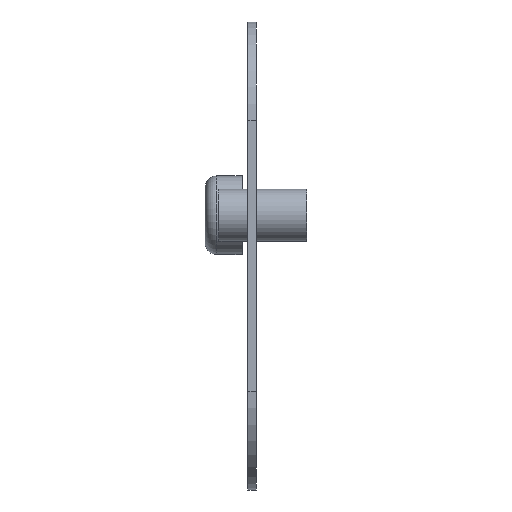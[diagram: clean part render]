
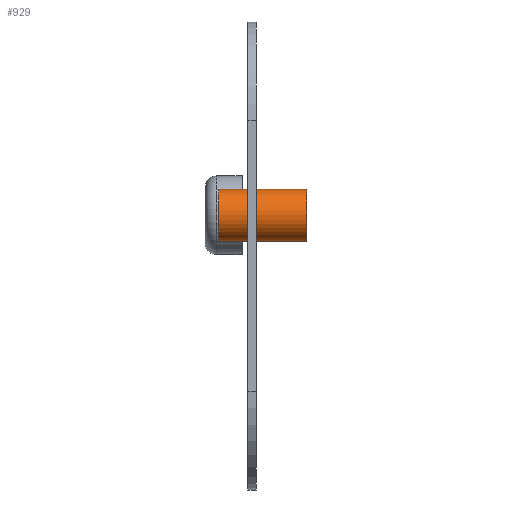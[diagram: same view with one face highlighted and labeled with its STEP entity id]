
A CAD part, left-side view. The second image highlights one B-rep face of the part: STEP entity #929.
In plain terms, the highlighted cylindrical face has radius 14.287 mm (diameter 28.575 mm), a partial arc.
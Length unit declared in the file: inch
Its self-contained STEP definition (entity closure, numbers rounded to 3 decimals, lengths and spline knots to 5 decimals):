
#12 = DIRECTION ( 'NONE',  ( 0., 1., 0. ) ) ;
#120 = DIRECTION ( 'NONE',  ( 0., 0., 1. ) ) ;
#163 = EDGE_CURVE ( 'NONE', #1482, #923, #1541, .T. ) ;
#194 = AXIS2_PLACEMENT_3D ( 'NONE', #1757, #681, #1453 ) ;
#230 = ORIENTED_EDGE ( 'NONE', *, *, #1668, .F. ) ;
#321 = CARTESIAN_POINT ( 'NONE',  ( -4.01498, 0.87234, 0.2816 ) ) ;
#381 = CARTESIAN_POINT ( 'NONE',  ( -4.01498, -1.02766, 1.4066 ) ) ;
#417 = VECTOR ( 'NONE', #1460, 39.37008 ) ;
#595 = LINE ( 'NONE', #1375, #1367 ) ;
#681 = DIRECTION ( 'NONE',  ( 0., -1., 0. ) ) ;
#800 = VERTEX_POINT ( 'NONE', #1715 ) ;
#851 = AXIS2_PLACEMENT_3D ( 'NONE', #1958, #1046, #120 ) ;
#853 = CARTESIAN_POINT ( 'NONE',  ( -4.01498, 0.87234, 1.4066 ) ) ;
#923 = VERTEX_POINT ( 'NONE', #381 ) ;
#928 = ORIENTED_EDGE ( 'NONE', *, *, #1331, .T. ) ;
#929 = ADVANCED_FACE ( 'NONE', ( #1055 ), #1016, .T. ) ;
#937 = CARTESIAN_POINT ( 'NONE',  ( -4.01498, -1.02766, 0.8441 ) ) ;
#1016 = CYLINDRICAL_SURFACE ( 'NONE', #194, 0.5625 ) ;
#1046 = DIRECTION ( 'NONE',  ( 0., 1., 0. ) ) ;
#1055 = FACE_OUTER_BOUND ( 'NONE', #1623, .T. ) ;
#1096 = DIRECTION ( 'NONE',  ( 0., 0., 1. ) ) ;
#1140 = ORIENTED_EDGE ( 'NONE', *, *, #1807, .T. ) ;
#1224 = DIRECTION ( 'NONE',  ( 0., -1., 0. ) ) ;
#1244 = CIRCLE ( 'NONE', #1696, 0.5625 ) ;
#1331 = EDGE_CURVE ( 'NONE', #800, #923, #1244, .T. ) ;
#1367 = VECTOR ( 'NONE', #1224, 39.37008 ) ;
#1375 = CARTESIAN_POINT ( 'NONE',  ( -4.01498, 0.87234, 0.2816 ) ) ;
#1453 = DIRECTION ( 'NONE',  ( 0., 0., -1. ) ) ;
#1460 = DIRECTION ( 'NONE',  ( 0., -1., 0. ) ) ;
#1482 = VERTEX_POINT ( 'NONE', #1727 ) ;
#1541 = LINE ( 'NONE', #853, #417 ) ;
#1554 = ORIENTED_EDGE ( 'NONE', *, *, #163, .F. ) ;
#1623 = EDGE_LOOP ( 'NONE', ( #1554, #230, #1140, #928 ) ) ;
#1660 = CIRCLE ( 'NONE', #851, 0.5625 ) ;
#1668 = EDGE_CURVE ( 'NONE', #1848, #1482, #1660, .T. ) ;
#1696 = AXIS2_PLACEMENT_3D ( 'NONE', #937, #12, #1096 ) ;
#1715 = CARTESIAN_POINT ( 'NONE',  ( -4.01498, -1.02766, 0.2816 ) ) ;
#1727 = CARTESIAN_POINT ( 'NONE',  ( -4.01498, 0.87234, 1.4066 ) ) ;
#1757 = CARTESIAN_POINT ( 'NONE',  ( -4.01498, 0.87234, 0.8441 ) ) ;
#1807 = EDGE_CURVE ( 'NONE', #1848, #800, #595, .T. ) ;
#1848 = VERTEX_POINT ( 'NONE', #321 ) ;
#1958 = CARTESIAN_POINT ( 'NONE',  ( -4.01498, 0.87234, 0.8441 ) ) ;
